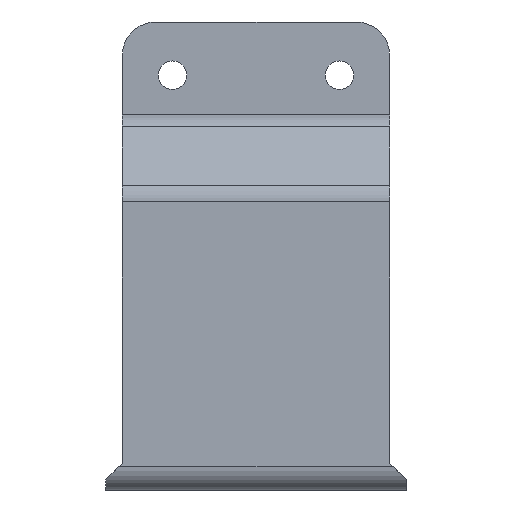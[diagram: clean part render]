
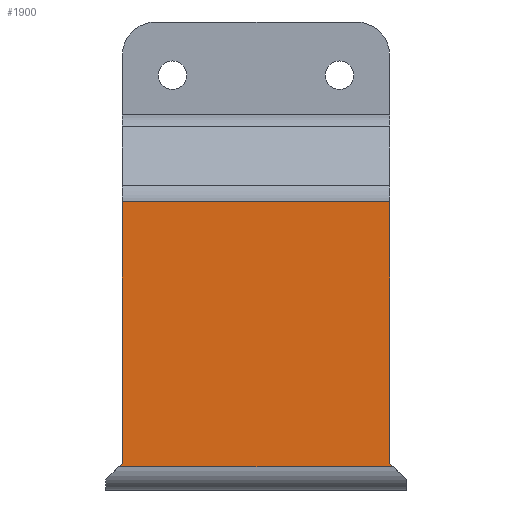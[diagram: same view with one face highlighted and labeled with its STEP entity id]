
A CAD part, left-side view. The second image highlights one B-rep face of the part: STEP entity #1900.
In plain terms, the highlighted planar face has unit normal (-1, 0, 0).
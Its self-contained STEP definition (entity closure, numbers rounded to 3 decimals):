
#3 = DIRECTION ( 'NONE',  ( 0., -1., 0. ) ) ;
#171 = CARTESIAN_POINT ( 'NONE',  ( -76.75, 18.394, 364.468 ) ) ;
#174 = ORIENTED_EDGE ( 'NONE', *, *, #869, .F. ) ;
#209 = EDGE_CURVE ( 'NONE', #424, #1004, #2242, .T. ) ;
#229 = PLANE ( 'NONE',  #836 ) ;
#246 = CARTESIAN_POINT ( 'NONE',  ( -76.75, -21.606, 364.468 ) ) ;
#272 = VERTEX_POINT ( 'NONE', #2110 ) ;
#417 = DIRECTION ( 'NONE',  ( 0., -0.707, 0.707 ) ) ;
#424 = VERTEX_POINT ( 'NONE', #1407 ) ;
#437 = CARTESIAN_POINT ( 'NONE',  ( -76.75, -21.606, 402.283 ) ) ;
#441 = LINE ( 'NONE', #171, #2298 ) ;
#475 = DIRECTION ( 'NONE',  ( 0., 0., -1. ) ) ;
#615 = DIRECTION ( 'NONE',  ( 0., -0.707, -0.707 ) ) ;
#621 = CARTESIAN_POINT ( 'NONE',  ( -76.75, 95.144, 285.283 ) ) ;
#698 = EDGE_CURVE ( 'NONE', #1004, #1838, #441, .T. ) ;
#705 = LINE ( 'NONE', #437, #1948 ) ;
#765 = DIRECTION ( 'NONE',  ( 1., 0., 0. ) ) ;
#836 = AXIS2_PLACEMENT_3D ( 'NONE', #2259, #765, #1499 ) ;
#840 = VECTOR ( 'NONE', #615, 1000. ) ;
#869 = EDGE_CURVE ( 'NONE', #1016, #424, #1168, .T. ) ;
#886 = CARTESIAN_POINT ( 'NONE',  ( -76.75, 58.394, 364.468 ) ) ;
#929 = VECTOR ( 'NONE', #1909, 1000. ) ;
#1004 = VERTEX_POINT ( 'NONE', #886 ) ;
#1016 = VERTEX_POINT ( 'NONE', #1612 ) ;
#1020 = CARTESIAN_POINT ( 'NONE',  ( -76.75, 58.394, 402.283 ) ) ;
#1037 = CARTESIAN_POINT ( 'NONE',  ( -76.75, -22.606, 285.283 ) ) ;
#1086 = VECTOR ( 'NONE', #1764, 1000. ) ;
#1168 = LINE ( 'NONE', #1890, #1302 ) ;
#1169 = CARTESIAN_POINT ( 'NONE',  ( -76.75, -21.606, 286.283 ) ) ;
#1214 = ORIENTED_EDGE ( 'NONE', *, *, #698, .F. ) ;
#1232 = FACE_OUTER_BOUND ( 'NONE', #2108, .T. ) ;
#1302 = VECTOR ( 'NONE', #417, 1000. ) ;
#1328 = LINE ( 'NONE', #621, #929 ) ;
#1376 = EDGE_CURVE ( 'NONE', #272, #2150, #1389, .T. ) ;
#1389 = LINE ( 'NONE', #1169, #840 ) ;
#1407 = CARTESIAN_POINT ( 'NONE',  ( -76.75, 58.394, 286.283 ) ) ;
#1457 = EDGE_CURVE ( 'NONE', #1838, #272, #705, .T. ) ;
#1499 = DIRECTION ( 'NONE',  ( 0., 0., -1. ) ) ;
#1612 = CARTESIAN_POINT ( 'NONE',  ( -76.75, 59.394, 285.283 ) ) ;
#1764 = DIRECTION ( 'NONE',  ( 0., 0., 1. ) ) ;
#1838 = VERTEX_POINT ( 'NONE', #246 ) ;
#1843 = ORIENTED_EDGE ( 'NONE', *, *, #1942, .T. ) ;
#1890 = CARTESIAN_POINT ( 'NONE',  ( -76.75, 63.394, 281.283 ) ) ;
#1900 = ADVANCED_FACE ( 'NONE', ( #1232 ), #229, .F. ) ;
#1909 = DIRECTION ( 'NONE',  ( 0., -1., 0. ) ) ;
#1942 = EDGE_CURVE ( 'NONE', #1016, #2150, #1328, .T. ) ;
#1947 = ORIENTED_EDGE ( 'NONE', *, *, #1457, .F. ) ;
#1948 = VECTOR ( 'NONE', #475, 1000. ) ;
#2024 = ORIENTED_EDGE ( 'NONE', *, *, #209, .F. ) ;
#2108 = EDGE_LOOP ( 'NONE', ( #2356, #1947, #1214, #2024, #174, #1843 ) ) ;
#2110 = CARTESIAN_POINT ( 'NONE',  ( -76.75, -21.606, 286.283 ) ) ;
#2150 = VERTEX_POINT ( 'NONE', #1037 ) ;
#2242 = LINE ( 'NONE', #1020, #1086 ) ;
#2259 = CARTESIAN_POINT ( 'NONE',  ( -76.75, 18.394, 402.283 ) ) ;
#2298 = VECTOR ( 'NONE', #3, 1000. ) ;
#2356 = ORIENTED_EDGE ( 'NONE', *, *, #1376, .F. ) ;
